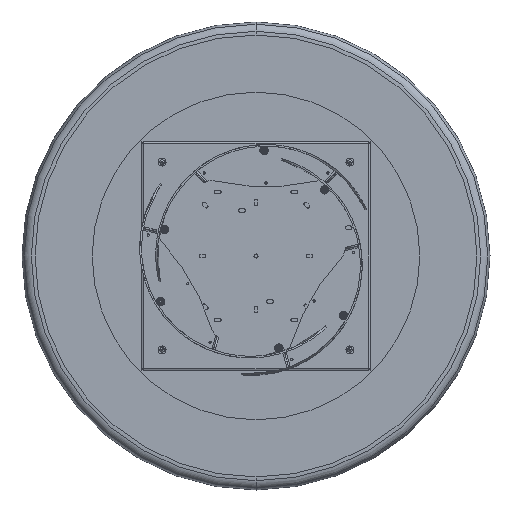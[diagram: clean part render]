
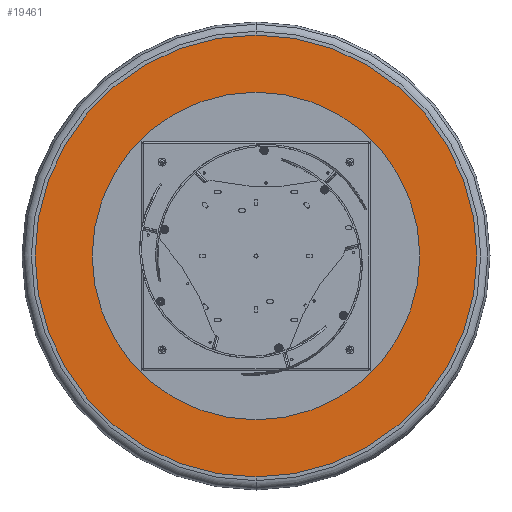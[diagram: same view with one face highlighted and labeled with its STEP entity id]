
A CAD part, front view. The second image highlights one B-rep face of the part: STEP entity #19461.
In plain terms, the highlighted planar face has unit normal (0, -1, 0).
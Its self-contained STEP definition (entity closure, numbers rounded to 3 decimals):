
#476 = CIRCLE ( 'NONE', #14020, 490. ) ;
#532 = EDGE_LOOP ( 'NONE', ( #7732, #10890 ) ) ;
#981 = DIRECTION ( 'NONE',  ( 0., -1., 0. ) ) ;
#2037 = CARTESIAN_POINT ( 'NONE',  ( 0., -56., 661. ) ) ;
#3194 = CARTESIAN_POINT ( 'NONE',  ( 0., -56., 661. ) ) ;
#3516 = FACE_BOUND ( 'NONE', #532, .T. ) ;
#4844 = CARTESIAN_POINT ( 'NONE',  ( 0., -56., 0. ) ) ;
#5036 = DIRECTION ( 'NONE',  ( 0., 1., 0. ) ) ;
#6213 = CIRCLE ( 'NONE', #15958, 661. ) ;
#6994 = DIRECTION ( 'NONE',  ( 0., 0., -1. ) ) ;
#7176 = EDGE_CURVE ( 'NONE', #10896, #10996, #476, .T. ) ;
#7211 = CARTESIAN_POINT ( 'NONE',  ( 0., -56., -661. ) ) ;
#7325 = CARTESIAN_POINT ( 'NONE',  ( 0., -56., -490. ) ) ;
#7463 = EDGE_CURVE ( 'NONE', #10996, #10896, #17452, .T. ) ;
#7701 = DIRECTION ( 'NONE',  ( 0., 0., 1. ) ) ;
#7732 = ORIENTED_EDGE ( 'NONE', *, *, #7463, .F. ) ;
#8053 = DIRECTION ( 'NONE',  ( 0., -1., 0. ) ) ;
#8314 = VERTEX_POINT ( 'NONE', #7211 ) ;
#8622 = ORIENTED_EDGE ( 'NONE', *, *, #19250, .F. ) ;
#8664 = CARTESIAN_POINT ( 'NONE',  ( 0., -56., 0. ) ) ;
#8946 = AXIS2_PLACEMENT_3D ( 'NONE', #12127, #12223, #18229 ) ;
#9443 = AXIS2_PLACEMENT_3D ( 'NONE', #4844, #5036, #7701 ) ;
#9535 = FACE_OUTER_BOUND ( 'NONE', #17021, .T. ) ;
#9803 = ORIENTED_EDGE ( 'NONE', *, *, #16091, .F. ) ;
#10890 = ORIENTED_EDGE ( 'NONE', *, *, #7176, .F. ) ;
#10896 = VERTEX_POINT ( 'NONE', #18784 ) ;
#10996 = VERTEX_POINT ( 'NONE', #7325 ) ;
#11880 = AXIS2_PLACEMENT_3D ( 'NONE', #2037, #8053, #14075 ) ;
#11926 = DIRECTION ( 'NONE',  ( 0., 1., 0. ) ) ;
#12127 = CARTESIAN_POINT ( 'NONE',  ( 0., -56., 0. ) ) ;
#12223 = DIRECTION ( 'NONE',  ( 0., -1., 0. ) ) ;
#14020 = AXIS2_PLACEMENT_3D ( 'NONE', #8664, #981, #6994 ) ;
#14075 = DIRECTION ( 'NONE',  ( 0., 0., -1. ) ) ;
#14617 = CARTESIAN_POINT ( 'NONE',  ( 0., -56., 0. ) ) ;
#15560 = PLANE ( 'NONE',  #11880 ) ;
#15958 = AXIS2_PLACEMENT_3D ( 'NONE', #14617, #11926, #17925 ) ;
#16091 = EDGE_CURVE ( 'NONE', #18476, #8314, #19217, .T. ) ;
#17021 = EDGE_LOOP ( 'NONE', ( #9803, #8622 ) ) ;
#17452 = CIRCLE ( 'NONE', #8946, 490. ) ;
#17925 = DIRECTION ( 'NONE',  ( 0., 0., 1. ) ) ;
#18229 = DIRECTION ( 'NONE',  ( 0., 0., -1. ) ) ;
#18476 = VERTEX_POINT ( 'NONE', #3194 ) ;
#18784 = CARTESIAN_POINT ( 'NONE',  ( 0., -56., 490. ) ) ;
#19217 = CIRCLE ( 'NONE', #9443, 661. ) ;
#19250 = EDGE_CURVE ( 'NONE', #8314, #18476, #6213, .T. ) ;
#19461 = ADVANCED_FACE ( 'NONE', ( #3516, #9535 ), #15560, .T. ) ;
